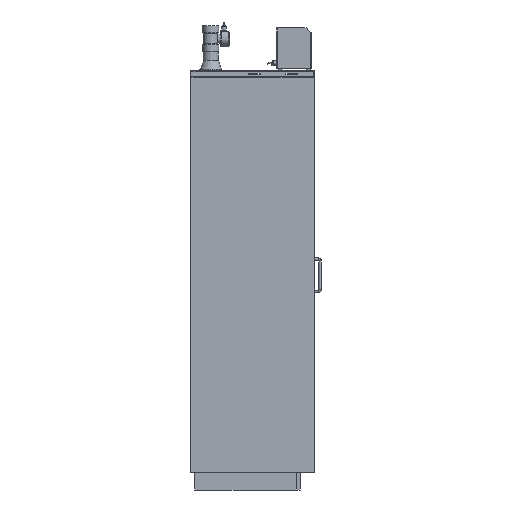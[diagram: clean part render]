
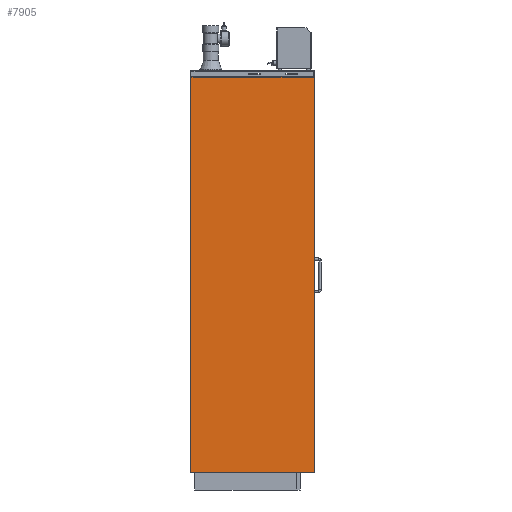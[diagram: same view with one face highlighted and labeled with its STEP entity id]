
A CAD part, left-side view. The second image highlights one B-rep face of the part: STEP entity #7905.
In plain terms, the highlighted planar face has unit normal (-1, 0, 0).
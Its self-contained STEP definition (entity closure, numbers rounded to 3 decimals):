
#1748=ORIENTED_EDGE('',*,*,#2559,.T.);
#1749=ORIENTED_EDGE('',*,*,#2347,.F.);
#1750=ORIENTED_EDGE('',*,*,#2560,.F.);
#1751=ORIENTED_EDGE('',*,*,#2531,.F.);
#1752=ORIENTED_EDGE('',*,*,#2550,.F.);
#1753=ORIENTED_EDGE('',*,*,#2355,.F.);
#1754=ORIENTED_EDGE('',*,*,#2553,.F.);
#1755=ORIENTED_EDGE('',*,*,#2523,.T.);
#2347=EDGE_CURVE('',#2945,#2946,#3507,.T.);
#2355=EDGE_CURVE('',#2953,#2954,#3515,.T.);
#2523=EDGE_CURVE('',#3066,#3067,#3643,.T.);
#2531=EDGE_CURVE('',#3074,#3075,#3651,.T.);
#2550=EDGE_CURVE('',#2954,#3074,#3670,.T.);
#2553=EDGE_CURVE('',#3066,#2953,#3673,.T.);
#2559=EDGE_CURVE('',#3067,#2946,#3679,.T.);
#2560=EDGE_CURVE('',#3075,#2945,#3680,.T.);
#2945=VERTEX_POINT('',#11126);
#2946=VERTEX_POINT('',#11128);
#2953=VERTEX_POINT('',#11142);
#2954=VERTEX_POINT('',#11144);
#3066=VERTEX_POINT('',#11541);
#3067=VERTEX_POINT('',#11542);
#3074=VERTEX_POINT('',#11558);
#3075=VERTEX_POINT('',#11559);
#3507=LINE('',#11127,#4096);
#3515=LINE('',#11143,#4104);
#3643=LINE('',#11540,#4232);
#3651=LINE('',#11557,#4240);
#3670=LINE('',#11596,#4259);
#3673=LINE('',#11600,#4262);
#3679=LINE('',#11612,#4268);
#3680=LINE('',#11614,#4269);
#4096=VECTOR('',#9447,1000.);
#4104=VECTOR('',#9455,1000.);
#4232=VECTOR('',#9829,1000.);
#4240=VECTOR('',#9839,1000.);
#4259=VECTOR('',#9874,1000.);
#4262=VECTOR('',#9879,1000.);
#4268=VECTOR('',#9897,1000.);
#4269=VECTOR('',#9900,1000.);
#4680=EDGE_LOOP('',(#1748,#1749,#1750,#1751,#1752,#1753,#1754,#1755));
#5121=FACE_BOUND('',#4680,.T.);
#5362=PLANE('',#8384);
#7905=ADVANCED_FACE('',(#5121),#5362,.F.);
#8384=AXIS2_PLACEMENT_3D('',#11613,#9898,#9899);
#9447=DIRECTION('',(0.,-1.,0.));
#9455=DIRECTION('',(0.,-1.,0.));
#9829=DIRECTION('',(0.,1.,0.));
#9839=DIRECTION('',(0.,1.,0.));
#9874=DIRECTION('',(0.,0.,-1.));
#9879=DIRECTION('',(0.,0.,1.));
#9897=DIRECTION('',(0.,0.,1.));
#9898=DIRECTION('',(1.,0.,0.));
#9899=DIRECTION('',(0.,0.,-1.));
#9900=DIRECTION('',(0.,0.,1.));
#11126=CARTESIAN_POINT('',(0.,612.,1956.));
#11127=CARTESIAN_POINT('',(0.,612.,1956.));
#11128=CARTESIAN_POINT('',(0.,583.,1956.));
#11142=CARTESIAN_POINT('',(0.,564.,1956.));
#11143=CARTESIAN_POINT('',(0.,612.,1956.));
#11144=CARTESIAN_POINT('',(0.,0.,1956.));
#11540=CARTESIAN_POINT('',(0.,564.,1954.5));
#11541=CARTESIAN_POINT('',(0.,564.,1954.5));
#11542=CARTESIAN_POINT('',(0.,583.,1954.5));
#11557=CARTESIAN_POINT('',(0.,0.,0.));
#11558=CARTESIAN_POINT('',(0.,0.,
0.));
#11559=CARTESIAN_POINT('',(0.,612.,0.));
#11596=CARTESIAN_POINT('',(0.,0.,
1956.));
#11600=CARTESIAN_POINT('',(0.,564.,1954.5));
#11612=CARTESIAN_POINT('',(0.,583.,1954.5));
#11613=CARTESIAN_POINT('',(0.,0.,0.));
#11614=CARTESIAN_POINT('',(0.,612.,0.));
